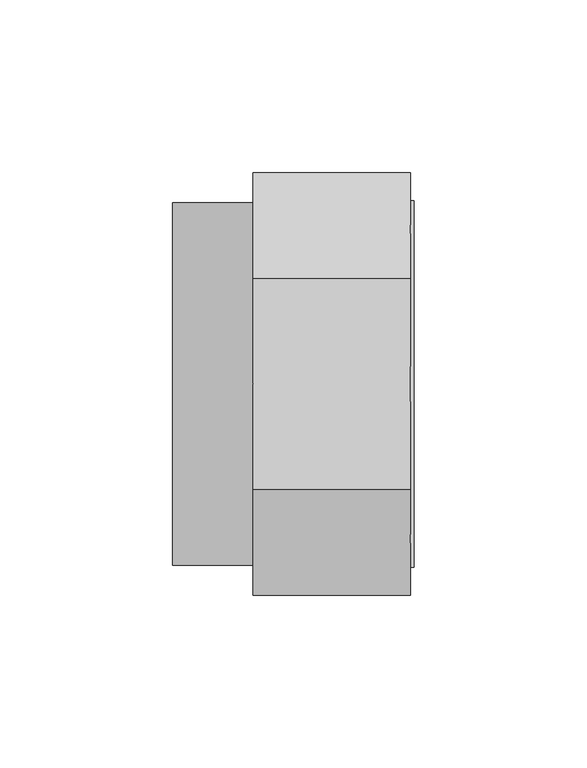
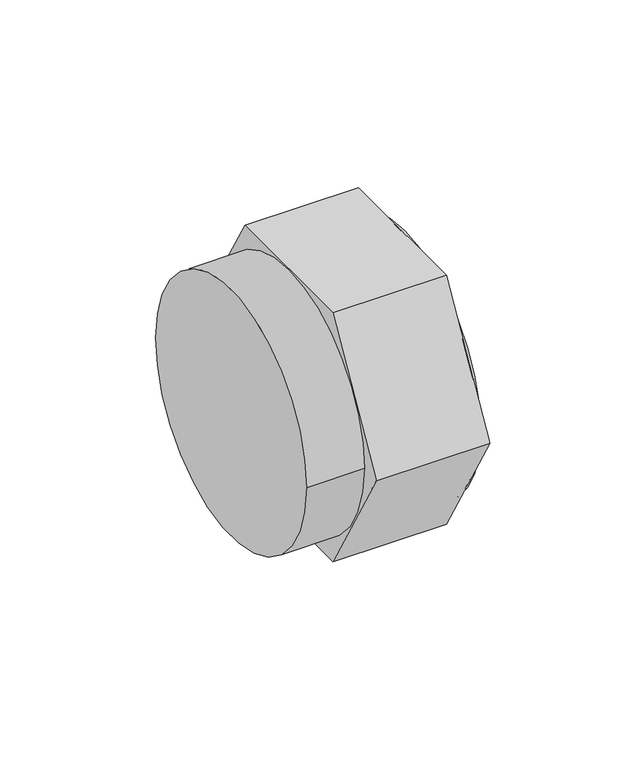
"""IFC4 building model written with IfcOpenShell, lengths in millimetres: pipe fitting geometry, 01011012 : Bouchon F."""

from ifc_helpers import new_model, si_unit, point, frame, origin, origin_2d, place, context, project, spatial, polyline, circle_curve, trimmed, segment, composite_curve, outline, extrude, source, transform, mapped, element, save


def pipe_fitting_8c69c534(model_context):
    return source(origin(), model_context, "Body", "SweptSolid", [
        extrude(outline(composite_curve([segment(trimmed(circle_curve(origin_2d(), 53.0), [point((-53.0, 0.0))], [point((53.0, 0.0))], False, "CARTESIAN"), True, "CONTINUOUS"), segment(trimmed(circle_curve(origin_2d(), 53.0), [point((53.0, 0.0))], [point((-53.0, 0.0))], False, "CARTESIAN"), True, "CONTINUOUS")], self_intersect=False)), frame((69.0, 0.0, 0.0), z_axis=(1.0, 0.0, 0.0), x_axis=(0.0, 1.0, 0.0)), (0.0, 0.0, 1.0), 1.0),
        extrude(outline(composite_curve([segment(trimmed(circle_curve(origin_2d(), 52.5), [point((-52.5, 0.0))], [point((52.5, 0.0))], False, "CARTESIAN"), True, "CONTINUOUS"), segment(trimmed(circle_curve(origin_2d(), 52.5), [point((52.5, 0.0))], [point((-52.5, 0.0))], False, "CARTESIAN"), True, "CONTINUOUS")], self_intersect=False)), frame((0.0, 0.0, 0.0), z_axis=(1.0, 0.0, 0.0), x_axis=(0.0, 1.0, 0.0)), (0.0, 0.0, 1.0), 23.3333333),
        extrude(outline(polyline([(-30.5995643, 53.0), (30.5995643, 53.0), (61.1991285, 0.0), (30.5995643, -53.0), (-30.5995643, -53.0), (-61.1991285, 0.0), (-30.5995643, 53.0)])), frame((23.3333333, 0.0, 0.0), z_axis=(1.0, 0.0, 0.0), x_axis=(0.0, 1.0, 0.0)), (0.0, 0.0, 1.0), 45.6666667),
    ])


if __name__ == "__main__":
    model = new_model("IFC4")
    model_context = context("Model", 3, world=origin())
    ifc_project = project(units=[si_unit("LENGTHUNIT", "METRE", prefix="MILLI")], contexts=[model_context])
    site = spatial("IfcSite", under=ifc_project)
    building = spatial("IfcBuilding", under=site)
    placement = place(None, origin())
    pipe_fitting_shape = pipe_fitting_8c69c534(model_context)
    element("IfcPipeFitting", 1, ObjectType="01011012 : Bouchon F", at=placement, inside=building, context=model_context, shape_type="MappedRepresentation", body=[
        mapped(pipe_fitting_shape, transform((0.0, 0.0, 0.0), x_axis=(1.0, 0.0, 0.0), y_axis=(0.0, 1.0, 0.0), z_axis=(0.0, 0.0, 1.0))),
    ])
    save(model, "model.ifc")
